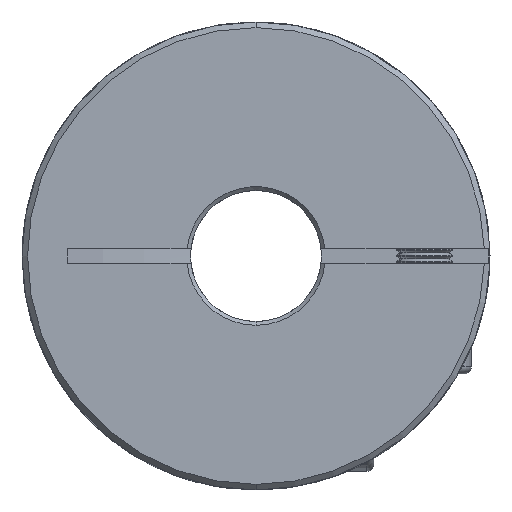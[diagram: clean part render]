
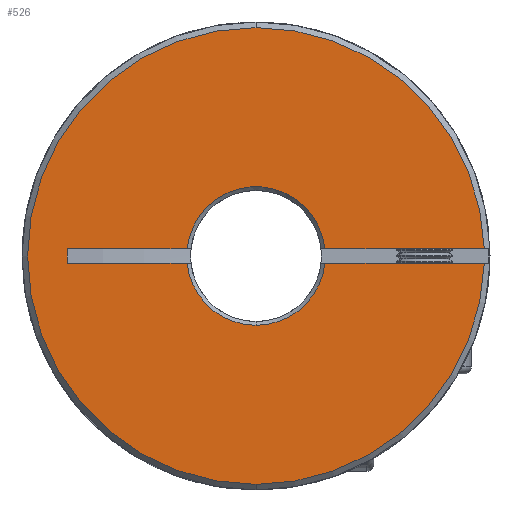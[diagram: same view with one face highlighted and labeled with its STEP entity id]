
A CAD part, front view. The second image highlights one B-rep face of the part: STEP entity #526.
In plain terms, the highlighted planar face has unit normal (0, -1, 0).
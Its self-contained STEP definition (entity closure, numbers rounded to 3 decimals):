
#115 = VERTEX_POINT ( 'NONE', #16523 ) ;
#429 = ORIENTED_EDGE ( 'NONE', *, *, #7706, .T. ) ;
#526 = ADVANCED_FACE ( 'NONE', ( #7453 ), #9959, .F. ) ;
#723 = VERTEX_POINT ( 'NONE', #3431 ) ;
#852 = CARTESIAN_POINT ( 'NONE',  ( 0., 0., 24.4 ) ) ;
#929 = EDGE_CURVE ( 'NONE', #3647, #723, #11643, .T. ) ;
#1010 = DIRECTION ( 'NONE',  ( 0., 0., 1. ) ) ;
#1117 = EDGE_CURVE ( 'NONE', #9446, #115, #5783, .T. ) ;
#1150 = EDGE_CURVE ( 'NONE', #14426, #7065, #5804, .T. ) ;
#1301 = CARTESIAN_POINT ( 'NONE',  ( -20.149, 0., -0.75 ) ) ;
#1342 = EDGE_CURVE ( 'NONE', #7124, #7065, #10829, .T. ) ;
#1434 = CIRCLE ( 'NONE', #5531, 24.4 ) ;
#2022 = EDGE_CURVE ( 'NONE', #2235, #2357, #5774, .T. ) ;
#2235 = VERTEX_POINT ( 'NONE', #17057 ) ;
#2243 = VECTOR ( 'NONE', #12170, 1000. ) ;
#2357 = VERTEX_POINT ( 'NONE', #13454 ) ;
#2563 = CARTESIAN_POINT ( 'NONE',  ( 0., 0., -24.4 ) ) ;
#2628 = CIRCLE ( 'NONE', #6679, 7.4 ) ;
#2818 = CIRCLE ( 'NONE', #11341, 7.4 ) ;
#3060 = DIRECTION ( 'NONE',  ( 0., 1., 0. ) ) ;
#3069 = DIRECTION ( 'NONE',  ( 0., -1., 0. ) ) ;
#3431 = CARTESIAN_POINT ( 'NONE',  ( -20.149, 0., 0.75 ) ) ;
#3640 = CARTESIAN_POINT ( 'NONE',  ( -50., 0., -0.75 ) ) ;
#3647 = VERTEX_POINT ( 'NONE', #12307 ) ;
#3872 = ORIENTED_EDGE ( 'NONE', *, *, #16502, .T. ) ;
#4051 = ORIENTED_EDGE ( 'NONE', *, *, #1342, .F. ) ;
#4082 = DIRECTION ( 'NONE',  ( 1., 0., 0. ) ) ;
#4163 = ORIENTED_EDGE ( 'NONE', *, *, #16364, .F. ) ;
#4845 = EDGE_CURVE ( 'NONE', #2357, #9331, #1434, .T. ) ;
#4904 = ORIENTED_EDGE ( 'NONE', *, *, #10912, .T. ) ;
#5139 = DIRECTION ( 'NONE',  ( 0., 1., 0. ) ) ;
#5143 = VECTOR ( 'NONE', #4082, 1000. ) ;
#5270 = CARTESIAN_POINT ( 'NONE',  ( -50., 0., 0.75 ) ) ;
#5348 = AXIS2_PLACEMENT_3D ( 'NONE', #5733, #8478, #9949 ) ;
#5531 = AXIS2_PLACEMENT_3D ( 'NONE', #8652, #13995, #9883 ) ;
#5733 = CARTESIAN_POINT ( 'NONE',  ( 0., 0., 0. ) ) ;
#5774 = LINE ( 'NONE', #5270, #10792 ) ;
#5783 = CIRCLE ( 'NONE', #6247, 7.4 ) ;
#5804 = CIRCLE ( 'NONE', #15822, 24.4 ) ;
#6239 = CARTESIAN_POINT ( 'NONE',  ( -7.362, 0., 0.75 ) ) ;
#6247 = AXIS2_PLACEMENT_3D ( 'NONE', #8440, #15147, #9736 ) ;
#6334 = CARTESIAN_POINT ( 'NONE',  ( 0., 0., 0. ) ) ;
#6431 = DIRECTION ( 'NONE',  ( 0., 1., 0. ) ) ;
#6554 = ORIENTED_EDGE ( 'NONE', *, *, #4845, .T. ) ;
#6568 = CARTESIAN_POINT ( 'NONE',  ( 0., 0., 0. ) ) ;
#6579 = CARTESIAN_POINT ( 'NONE',  ( -50., 0., -0.75 ) ) ;
#6679 = AXIS2_PLACEMENT_3D ( 'NONE', #6334, #6431, #1010 ) ;
#7065 = VERTEX_POINT ( 'NONE', #11501 ) ;
#7124 = VERTEX_POINT ( 'NONE', #15576 ) ;
#7453 = FACE_OUTER_BOUND ( 'NONE', #17122, .T. ) ;
#7706 = EDGE_CURVE ( 'NONE', #7124, #9446, #2628, .T. ) ;
#8440 = CARTESIAN_POINT ( 'NONE',  ( 0., 0., 0. ) ) ;
#8478 = DIRECTION ( 'NONE',  ( 0., -1., 0. ) ) ;
#8652 = CARTESIAN_POINT ( 'NONE',  ( 0., 0., 0. ) ) ;
#8930 = VECTOR ( 'NONE', #11952, 1000. ) ;
#9331 = VERTEX_POINT ( 'NONE', #852 ) ;
#9446 = VERTEX_POINT ( 'NONE', #14729 ) ;
#9709 = CIRCLE ( 'NONE', #5348, 24.4 ) ;
#9736 = DIRECTION ( 'NONE',  ( 0., 0., 1. ) ) ;
#9883 = DIRECTION ( 'NONE',  ( 0., 0., 1. ) ) ;
#9949 = DIRECTION ( 'NONE',  ( 0., 0., 1. ) ) ;
#9959 = PLANE ( 'NONE',  #12310 ) ;
#10377 = ORIENTED_EDGE ( 'NONE', *, *, #1117, .T. ) ;
#10590 = ORIENTED_EDGE ( 'NONE', *, *, #2022, .T. ) ;
#10792 = VECTOR ( 'NONE', #13913, 1000. ) ;
#10829 = LINE ( 'NONE', #6579, #5143 ) ;
#10912 = EDGE_CURVE ( 'NONE', #12360, #2235, #2818, .T. ) ;
#11132 = CARTESIAN_POINT ( 'NONE',  ( -50., 0., 32.858 ) ) ;
#11341 = AXIS2_PLACEMENT_3D ( 'NONE', #6568, #5139, #14386 ) ;
#11501 = CARTESIAN_POINT ( 'NONE',  ( 24.388, 0., -0.75 ) ) ;
#11643 = LINE ( 'NONE', #1301, #8930 ) ;
#11952 = DIRECTION ( 'NONE',  ( 0., 0., 1. ) ) ;
#12170 = DIRECTION ( 'NONE',  ( 1., 0., 0. ) ) ;
#12307 = CARTESIAN_POINT ( 'NONE',  ( -20.149, 0., -0.75 ) ) ;
#12310 = AXIS2_PLACEMENT_3D ( 'NONE', #11132, #3060, #12604 ) ;
#12356 = LINE ( 'NONE', #3640, #12785 ) ;
#12360 = VERTEX_POINT ( 'NONE', #6239 ) ;
#12434 = CARTESIAN_POINT ( 'NONE',  ( 0., 0., 0. ) ) ;
#12604 = DIRECTION ( 'NONE',  ( 0., 0., 1. ) ) ;
#12785 = VECTOR ( 'NONE', #17237, 1000. ) ;
#13414 = LINE ( 'NONE', #16231, #2243 ) ;
#13454 = CARTESIAN_POINT ( 'NONE',  ( 24.388, 0., 0.75 ) ) ;
#13913 = DIRECTION ( 'NONE',  ( 1., 0., 0. ) ) ;
#13995 = DIRECTION ( 'NONE',  ( 0., -1., 0. ) ) ;
#14068 = EDGE_CURVE ( 'NONE', #9331, #14426, #9709, .T. ) ;
#14386 = DIRECTION ( 'NONE',  ( 0., 0., 1. ) ) ;
#14426 = VERTEX_POINT ( 'NONE', #2563 ) ;
#14588 = ORIENTED_EDGE ( 'NONE', *, *, #929, .T. ) ;
#14728 = ORIENTED_EDGE ( 'NONE', *, *, #14068, .T. ) ;
#14729 = CARTESIAN_POINT ( 'NONE',  ( 0., 0., -7.4 ) ) ;
#15147 = DIRECTION ( 'NONE',  ( 0., 1., 0. ) ) ;
#15312 = DIRECTION ( 'NONE',  ( 0., 0., 1. ) ) ;
#15576 = CARTESIAN_POINT ( 'NONE',  ( 7.362, 0., -0.75 ) ) ;
#15822 = AXIS2_PLACEMENT_3D ( 'NONE', #12434, #3069, #15312 ) ;
#16231 = CARTESIAN_POINT ( 'NONE',  ( -50., 0., 0.75 ) ) ;
#16364 = EDGE_CURVE ( 'NONE', #3647, #115, #12356, .T. ) ;
#16502 = EDGE_CURVE ( 'NONE', #723, #12360, #13414, .T. ) ;
#16523 = CARTESIAN_POINT ( 'NONE',  ( -7.362, 0., -0.75 ) ) ;
#17057 = CARTESIAN_POINT ( 'NONE',  ( 7.362, 0., 0.75 ) ) ;
#17122 = EDGE_LOOP ( 'NONE', ( #4051, #429, #10377, #4163, #14588, #3872, #4904, #10590, #6554, #14728, #17392 ) ) ;
#17237 = DIRECTION ( 'NONE',  ( 1., 0., 0. ) ) ;
#17392 = ORIENTED_EDGE ( 'NONE', *, *, #1150, .T. ) ;
